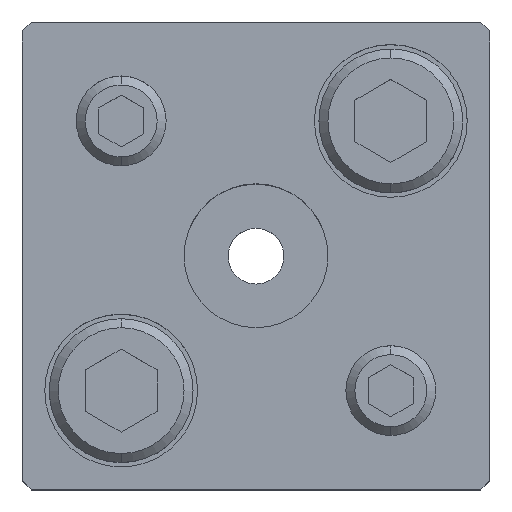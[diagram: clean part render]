
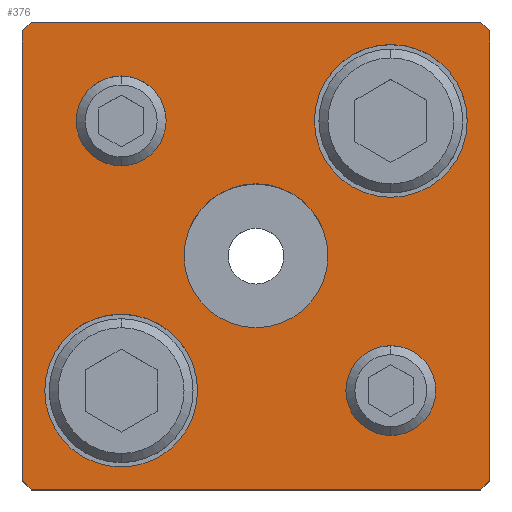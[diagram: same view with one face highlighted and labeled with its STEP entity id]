
A CAD part, top view. The second image highlights one B-rep face of the part: STEP entity #376.
In plain terms, the highlighted planar face has unit normal (0, 0, 1).
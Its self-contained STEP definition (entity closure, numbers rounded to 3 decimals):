
#139=PLANE('',#2852);
#200=FACE_BOUND('',#707,.T.);
#201=FACE_BOUND('',#708,.T.);
#202=FACE_BOUND('',#709,.T.);
#203=FACE_BOUND('',#710,.T.);
#204=FACE_BOUND('',#711,.T.);
#205=FACE_BOUND('',#712,.T.);
#376=ADVANCED_FACE('',(#200,#201,#202,#203,#204,#205),#139,.T.);
#707=EDGE_LOOP('',(#1263,#1264,#1265,#1266,#1267,#1268,#1269,#1270));
#708=EDGE_LOOP('',(#1271,#1272));
#709=EDGE_LOOP('',(#1273,#1274));
#710=EDGE_LOOP('',(#1275,#1276));
#711=EDGE_LOOP('',(#1277,#1278));
#712=EDGE_LOOP('',(#1279,#1280));
#881=CIRCLE('',#2822,5.);
#883=CIRCLE('',#2825,5.);
#885=CIRCLE('',#2828,5.);
#887=CIRCLE('',#2831,5.);
#897=CIRCLE('',#2846,8.5);
#898=CIRCLE('',#2847,8.5);
#899=CIRCLE('',#2848,8.5);
#900=CIRCLE('',#2849,8.5);
#901=CIRCLE('',#2850,8.);
#902=CIRCLE('',#2851,8.);
#1263=ORIENTED_EDGE('',*,*,#2069,.T.);
#1264=ORIENTED_EDGE('',*,*,#2070,.T.);
#1265=ORIENTED_EDGE('',*,*,#2071,.T.);
#1266=ORIENTED_EDGE('',*,*,#2072,.T.);
#1267=ORIENTED_EDGE('',*,*,#2073,.T.);
#1268=ORIENTED_EDGE('',*,*,#2074,.T.);
#1269=ORIENTED_EDGE('',*,*,#2075,.T.);
#1270=ORIENTED_EDGE('',*,*,#2076,.T.);
#1271=ORIENTED_EDGE('',*,*,#2077,.F.);
#1272=ORIENTED_EDGE('',*,*,#2078,.F.);
#1273=ORIENTED_EDGE('',*,*,#2079,.F.);
#1274=ORIENTED_EDGE('',*,*,#2080,.F.);
#1275=ORIENTED_EDGE('',*,*,#2055,.F.);
#1276=ORIENTED_EDGE('',*,*,#2051,.F.);
#1277=ORIENTED_EDGE('',*,*,#2049,.F.);
#1278=ORIENTED_EDGE('',*,*,#2045,.F.);
#1279=ORIENTED_EDGE('',*,*,#2081,.T.);
#1280=ORIENTED_EDGE('',*,*,#2082,.T.);
#1763=VERTEX_POINT('',#4143);
#1764=VERTEX_POINT('',#4144);
#1767=VERTEX_POINT('',#4155);
#1768=VERTEX_POINT('',#4156);
#1779=VERTEX_POINT('',#4191);
#1780=VERTEX_POINT('',#4192);
#1781=VERTEX_POINT('',#4194);
#1782=VERTEX_POINT('',#4196);
#1783=VERTEX_POINT('',#4198);
#1784=VERTEX_POINT('',#4200);
#1785=VERTEX_POINT('',#4202);
#1786=VERTEX_POINT('',#4204);
#1787=VERTEX_POINT('',#4207);
#1788=VERTEX_POINT('',#4208);
#1789=VERTEX_POINT('',#4211);
#1790=VERTEX_POINT('',#4212);
#1791=VERTEX_POINT('',#4215);
#1792=VERTEX_POINT('',#4216);
#2045=EDGE_CURVE('',#1763,#1764,#881,.T.);
#2049=EDGE_CURVE('',#1764,#1763,#883,.T.);
#2051=EDGE_CURVE('',#1767,#1768,#885,.T.);
#2055=EDGE_CURVE('',#1768,#1767,#887,.T.);
#2069=EDGE_CURVE('',#1779,#1780,#2347,.T.);
#2070=EDGE_CURVE('',#1780,#1781,#2348,.T.);
#2071=EDGE_CURVE('',#1781,#1782,#2349,.T.);
#2072=EDGE_CURVE('',#1782,#1783,#2350,.T.);
#2073=EDGE_CURVE('',#1783,#1784,#2351,.T.);
#2074=EDGE_CURVE('',#1784,#1785,#2352,.T.);
#2075=EDGE_CURVE('',#1785,#1786,#2353,.T.);
#2076=EDGE_CURVE('',#1786,#1779,#2354,.T.);
#2077=EDGE_CURVE('',#1787,#1788,#897,.T.);
#2078=EDGE_CURVE('',#1788,#1787,#898,.T.);
#2079=EDGE_CURVE('',#1789,#1790,#899,.T.);
#2080=EDGE_CURVE('',#1790,#1789,#900,.T.);
#2081=EDGE_CURVE('',#1791,#1792,#901,.T.);
#2082=EDGE_CURVE('',#1792,#1791,#902,.T.);
#2347=LINE('',#4190,#2563);
#2348=LINE('',#4193,#2564);
#2349=LINE('',#4195,#2565);
#2350=LINE('',#4197,#2566);
#2351=LINE('',#4199,#2567);
#2352=LINE('',#4201,#2568);
#2353=LINE('',#4203,#2569);
#2354=LINE('',#4205,#2570);
#2563=VECTOR('',#3379,1.);
#2564=VECTOR('',#3380,1.);
#2565=VECTOR('',#3381,1.);
#2566=VECTOR('',#3382,1.);
#2567=VECTOR('',#3383,1.);
#2568=VECTOR('',#3384,1.);
#2569=VECTOR('',#3385,1.);
#2570=VECTOR('',#3386,1.);
#2822=AXIS2_PLACEMENT_3D('',#4142,#3323,#3324);
#2825=AXIS2_PLACEMENT_3D('',#4151,#3331,#3332);
#2828=AXIS2_PLACEMENT_3D('',#4154,#3337,#3338);
#2831=AXIS2_PLACEMENT_3D('',#4163,#3345,#3346);
#2846=AXIS2_PLACEMENT_3D('',#4206,#3387,#3388);
#2847=AXIS2_PLACEMENT_3D('',#4209,#3389,#3390);
#2848=AXIS2_PLACEMENT_3D('',#4210,#3391,#3392);
#2849=AXIS2_PLACEMENT_3D('',#4213,#3393,#3394);
#2850=AXIS2_PLACEMENT_3D('',#4214,#3395,#3396);
#2851=AXIS2_PLACEMENT_3D('',#4217,#3397,#3398);
#2852=AXIS2_PLACEMENT_3D('',#4218,#3399,#3400);
#3323=DIRECTION('',(0.,0.,1.));
#3324=DIRECTION('',(1.,0.,0.));
#3331=DIRECTION('',(0.,0.,1.));
#3332=DIRECTION('',(-1.,0.,0.));
#3337=DIRECTION('',(0.,0.,1.));
#3338=DIRECTION('',(1.,0.,0.));
#3345=DIRECTION('',(0.,0.,1.));
#3346=DIRECTION('',(-1.,0.,0.));
#3379=DIRECTION('',(1.,0.,0.));
#3380=DIRECTION('',(0.707,0.707,0.));
#3381=DIRECTION('',(0.,1.,0.));
#3382=DIRECTION('',(-0.707,0.707,0.));
#3383=DIRECTION('',(-1.,0.,0.));
#3384=DIRECTION('',(-0.707,-0.707,0.));
#3385=DIRECTION('',(0.,-1.,0.));
#3386=DIRECTION('',(0.707,-0.707,0.));
#3387=DIRECTION('',(0.,0.,1.));
#3388=DIRECTION('',(1.,0.,0.));
#3389=DIRECTION('',(0.,0.,1.));
#3390=DIRECTION('',(-1.,0.,0.));
#3391=DIRECTION('',(0.,0.,1.));
#3392=DIRECTION('',(1.,0.,0.));
#3393=DIRECTION('',(0.,0.,1.));
#3394=DIRECTION('',(-1.,0.,0.));
#3395=DIRECTION('',(0.,0.,-1.));
#3396=DIRECTION('',(-1.,0.,0.));
#3397=DIRECTION('',(0.,0.,-1.));
#3398=DIRECTION('',(1.,0.,0.));
#3399=DIRECTION('',(0.,0.,1.));
#3400=DIRECTION('',(-1.,0.,0.));
#4142=CARTESIAN_POINT('',(15.,-15.,35.));
#4143=CARTESIAN_POINT('',(15.,-10.,35.));
#4144=CARTESIAN_POINT('',(15.,-20.,35.));
#4151=CARTESIAN_POINT('',(15.,-15.,35.));
#4154=CARTESIAN_POINT('',(-15.,15.,35.));
#4155=CARTESIAN_POINT('',(-15.,20.,35.));
#4156=CARTESIAN_POINT('',(-15.,10.,35.));
#4163=CARTESIAN_POINT('',(-15.,15.,35.));
#4190=CARTESIAN_POINT('',(25.,-26.,35.));
#4191=CARTESIAN_POINT('',(-25.,-26.,35.));
#4192=CARTESIAN_POINT('',(25.,-26.,35.));
#4193=CARTESIAN_POINT('',(26.,-25.,35.));
#4194=CARTESIAN_POINT('',(26.,-25.,35.));
#4195=CARTESIAN_POINT('',(26.,25.,35.));
#4196=CARTESIAN_POINT('',(26.,25.,35.));
#4197=CARTESIAN_POINT('',(25.,26.,35.));
#4198=CARTESIAN_POINT('',(25.,26.,35.));
#4199=CARTESIAN_POINT('',(-25.,26.,35.));
#4200=CARTESIAN_POINT('',(-25.,26.,35.));
#4201=CARTESIAN_POINT('',(-26.,25.,35.));
#4202=CARTESIAN_POINT('',(-26.,25.,35.));
#4203=CARTESIAN_POINT('',(-26.,-25.,35.));
#4204=CARTESIAN_POINT('',(-26.,-25.,35.));
#4205=CARTESIAN_POINT('',(-26.,-25.,35.));
#4206=CARTESIAN_POINT('',(-15.,-15.,35.));
#4207=CARTESIAN_POINT('',(-15.,-6.5,35.));
#4208=CARTESIAN_POINT('',(-15.,-23.5,35.));
#4209=CARTESIAN_POINT('',(-15.,-15.,35.));
#4210=CARTESIAN_POINT('',(15.,15.,35.));
#4211=CARTESIAN_POINT('',(15.,23.5,35.));
#4212=CARTESIAN_POINT('',(15.,6.5,35.));
#4213=CARTESIAN_POINT('',(15.,15.,35.));
#4214=CARTESIAN_POINT('',(0.,0.,35.));
#4215=CARTESIAN_POINT('',(0.,8.,35.));
#4216=CARTESIAN_POINT('',(0.,-8.,35.));
#4217=CARTESIAN_POINT('',(0.,0.,35.));
#4218=CARTESIAN_POINT('',(-25.,-26.,35.));
